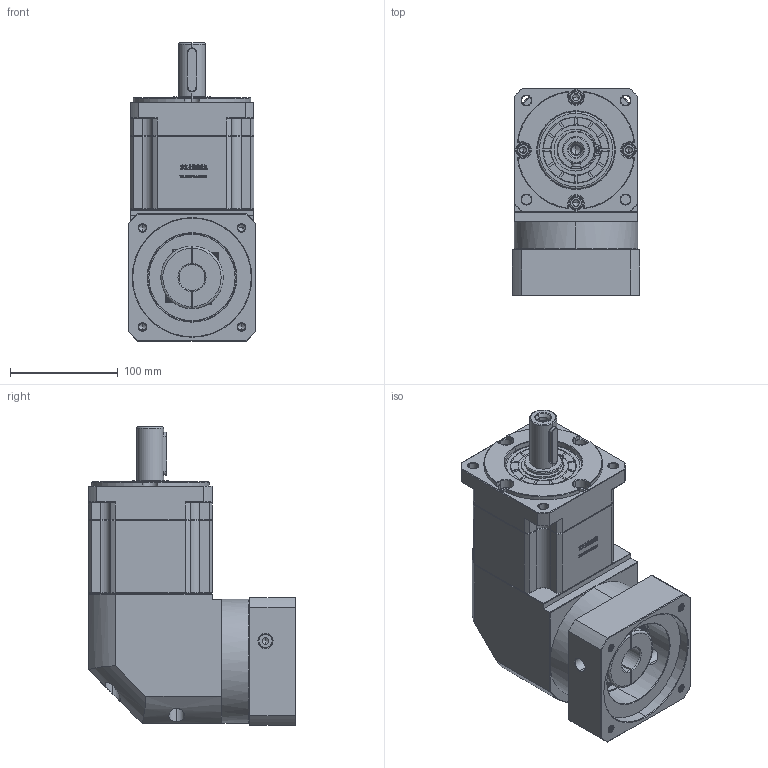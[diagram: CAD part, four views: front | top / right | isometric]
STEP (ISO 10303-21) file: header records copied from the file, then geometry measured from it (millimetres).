
FILE_DESCRIPTION (( 'STEP AP214' ), '1' );
FILE_NAME ('ZBR115A-D25-L2-24-110-130-M8.step', '2023-03-03T04:57:09', ( '' ), ( 'Microsoft' ), 'SwSTEP 2.0', 'SolidWorks 2016', '' );
FILE_SCHEMA (( 'AUTOMOTIVE_DESIGN' ));
Length unit declared in the file: millimetre
Products named in the file (1): ZBR115A-D25-L2-24-110-130-M8
Bounding box: 118 x 192.4 x 276.5 mm (x, y, z)
Volume: 3262863.2 mm3; surface area: 259131.4 mm2
Topology: 6 solids, 6 shells, 2981 faces, 7921 edges, 5086 vertices
Faces by surface type: plane 1559, bspline 606, cylinder 439, cone 369, torus 8
Entity records: 161772 total; most frequent: CARTESIAN_POINT 59752, ORIENTED_EDGE 15782, DIRECTION 11953, EDGE_CURVE 7891, VECTOR 5307, LINE 5307, VERTEX_POINT 5086, AXIS2_PLACEMENT_3D 3323
